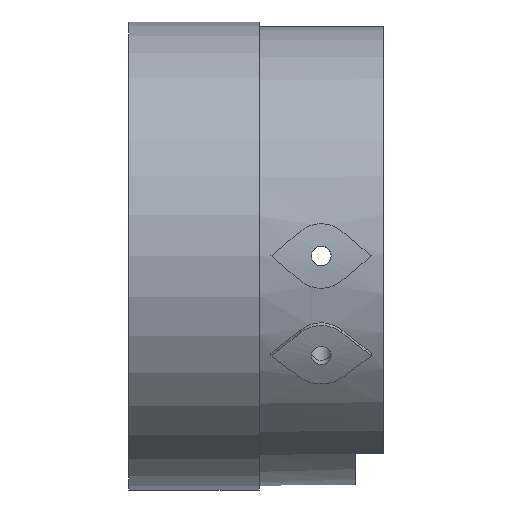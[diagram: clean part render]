
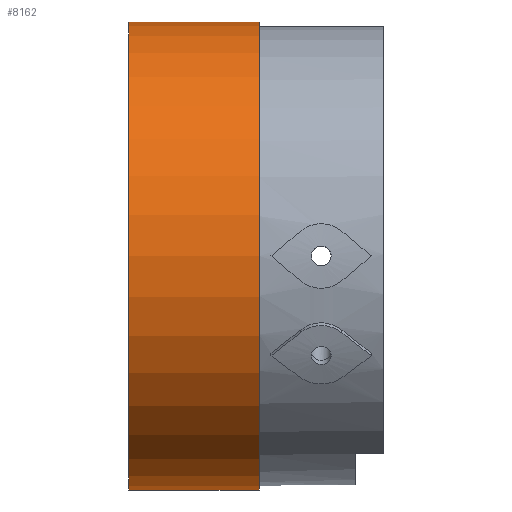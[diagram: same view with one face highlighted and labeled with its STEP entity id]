
A CAD part, front view. The second image highlights one B-rep face of the part: STEP entity #8162.
In plain terms, the highlighted cylindrical face has radius 18.85 mm (diameter 37.7 mm), a full revolution.
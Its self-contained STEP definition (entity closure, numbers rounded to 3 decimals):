
#21 = EDGE_CURVE('',#22,#22,#24,.T.);
#22 = VERTEX_POINT('',#23);
#23 = CARTESIAN_POINT('',(339.5,0.,18.85));
#24 = SURFACE_CURVE('',#25,(#30,#42),.PCURVE_S1.);
#25 = CIRCLE('',#26,18.85);
#26 = AXIS2_PLACEMENT_3D('',#27,#28,#29);
#27 = CARTESIAN_POINT('',(339.5,0.,0.));
#28 = DIRECTION('',(1.,0.,0.));
#29 = DIRECTION('',(-0.,0.,1.));
#30 = PCURVE('',#31,#36);
#31 = PLANE('',#32);
#32 = AXIS2_PLACEMENT_3D('',#33,#34,#35);
#33 = CARTESIAN_POINT('',(339.5,-30.,-30.));
#34 = DIRECTION('',(1.,0.,-0.));
#35 = DIRECTION('',(0.,0.,1.));
#36 = DEFINITIONAL_REPRESENTATION('',(#37),#41);
#37 = CIRCLE('',#38,18.85);
#38 = AXIS2_PLACEMENT_2D('',#39,#40);
#39 = CARTESIAN_POINT('',(30.,-30.));
#40 = DIRECTION('',(1.,0.));
#41 = ( GEOMETRIC_REPRESENTATION_CONTEXT(2) 
PARAMETRIC_REPRESENTATION_CONTEXT() REPRESENTATION_CONTEXT('2D SPACE',''
  ) );
#42 = PCURVE('',#43,#48);
#43 = CYLINDRICAL_SURFACE('',#44,18.85);
#44 = AXIS2_PLACEMENT_3D('',#45,#46,#47);
#45 = CARTESIAN_POINT('',(330.,0.,0.));
#46 = DIRECTION('',(1.,0.,0.));
#47 = DIRECTION('',(-0.,0.,1.));
#48 = DEFINITIONAL_REPRESENTATION('',(#49),#53);
#49 = LINE('',#50,#51);
#50 = CARTESIAN_POINT('',(0.,9.5));
#51 = VECTOR('',#52,1.);
#52 = DIRECTION('',(1.,0.));
#53 = ( GEOMETRIC_REPRESENTATION_CONTEXT(2) 
PARAMETRIC_REPRESENTATION_CONTEXT() REPRESENTATION_CONTEXT('2D SPACE',''
  ) );
#2559 = PLANE('',#2560);
#2560 = AXIS2_PLACEMENT_3D('',#2561,#2562,#2563);
#2561 = CARTESIAN_POINT('',(350.,-60.,-120.));
#2562 = DIRECTION('',(1.,0.,-0.));
#2563 = DIRECTION('',(0.,0.,1.));
#7208 = EDGE_CURVE('',#7209,#7209,#7211,.T.);
#7209 = VERTEX_POINT('',#7210);
#7210 = CARTESIAN_POINT('',(350.,0.,18.85));
#7211 = SURFACE_CURVE('',#7212,(#7217,#7228),.PCURVE_S1.);
#7212 = CIRCLE('',#7213,18.85);
#7213 = AXIS2_PLACEMENT_3D('',#7214,#7215,#7216);
#7214 = CARTESIAN_POINT('',(350.,0.,0.));
#7215 = DIRECTION('',(-1.,0.,0.));
#7216 = DIRECTION('',(0.,0.,1.));
#7217 = PCURVE('',#2559,#7218);
#7218 = DEFINITIONAL_REPRESENTATION('',(#7219),#7227);
#7219 = ( BOUNDED_CURVE() B_SPLINE_CURVE(2,(#7220,#7221,#7222,#7223,
#7224,#7225,#7226),.UNSPECIFIED.,.T.,.F.) B_SPLINE_CURVE_WITH_KNOTS((1,2
    ,2,2,2,1),(-2.094,0.,2.094,4.189,
6.283,8.378),.UNSPECIFIED.) CURVE() 
GEOMETRIC_REPRESENTATION_ITEM() RATIONAL_B_SPLINE_CURVE((1.,0.5,1.,0.5,
1.,0.5,1.)) REPRESENTATION_ITEM('') );
#7220 = CARTESIAN_POINT('',(138.85,-60.));
#7221 = CARTESIAN_POINT('',(138.85,-92.649));
#7222 = CARTESIAN_POINT('',(110.575,-76.325));
#7223 = CARTESIAN_POINT('',(82.3,-60.));
#7224 = CARTESIAN_POINT('',(110.575,-43.675));
#7225 = CARTESIAN_POINT('',(138.85,-27.351));
#7226 = CARTESIAN_POINT('',(138.85,-60.));
#7227 = ( GEOMETRIC_REPRESENTATION_CONTEXT(2) 
PARAMETRIC_REPRESENTATION_CONTEXT() REPRESENTATION_CONTEXT('2D SPACE',''
  ) );
#7228 = PCURVE('',#43,#7229);
#7229 = DEFINITIONAL_REPRESENTATION('',(#7230),#7234);
#7230 = LINE('',#7231,#7232);
#7231 = CARTESIAN_POINT('',(6.283,20.));
#7232 = VECTOR('',#7233,1.);
#7233 = DIRECTION('',(-1.,-0.));
#7234 = ( GEOMETRIC_REPRESENTATION_CONTEXT(2) 
PARAMETRIC_REPRESENTATION_CONTEXT() REPRESENTATION_CONTEXT('2D SPACE',''
  ) );
#8162 = ADVANCED_FACE('',(#8163),#43,.T.);
#8163 = FACE_BOUND('',#8164,.T.);
#8164 = EDGE_LOOP('',(#8165,#8166,#8187,#8188));
#8165 = ORIENTED_EDGE('',*,*,#21,.T.);
#8166 = ORIENTED_EDGE('',*,*,#8167,.T.);
#8167 = EDGE_CURVE('',#22,#7209,#8168,.T.);
#8168 = SEAM_CURVE('',#8169,(#8173,#8180),.PCURVE_S1.);
#8169 = LINE('',#8170,#8171);
#8170 = CARTESIAN_POINT('',(339.5,0.,18.85));
#8171 = VECTOR('',#8172,1.);
#8172 = DIRECTION('',(1.,0.,0.));
#8173 = PCURVE('',#43,#8174);
#8174 = DEFINITIONAL_REPRESENTATION('',(#8175),#8179);
#8175 = LINE('',#8176,#8177);
#8176 = CARTESIAN_POINT('',(6.283,9.5));
#8177 = VECTOR('',#8178,1.);
#8178 = DIRECTION('',(0.,1.));
#8179 = ( GEOMETRIC_REPRESENTATION_CONTEXT(2) 
PARAMETRIC_REPRESENTATION_CONTEXT() REPRESENTATION_CONTEXT('2D SPACE',''
  ) );
#8180 = PCURVE('',#43,#8181);
#8181 = DEFINITIONAL_REPRESENTATION('',(#8182),#8186);
#8182 = LINE('',#8183,#8184);
#8183 = CARTESIAN_POINT('',(0.,9.5));
#8184 = VECTOR('',#8185,1.);
#8185 = DIRECTION('',(0.,1.));
#8186 = ( GEOMETRIC_REPRESENTATION_CONTEXT(2) 
PARAMETRIC_REPRESENTATION_CONTEXT() REPRESENTATION_CONTEXT('2D SPACE',''
  ) );
#8187 = ORIENTED_EDGE('',*,*,#7208,.T.);
#8188 = ORIENTED_EDGE('',*,*,#8167,.F.);
